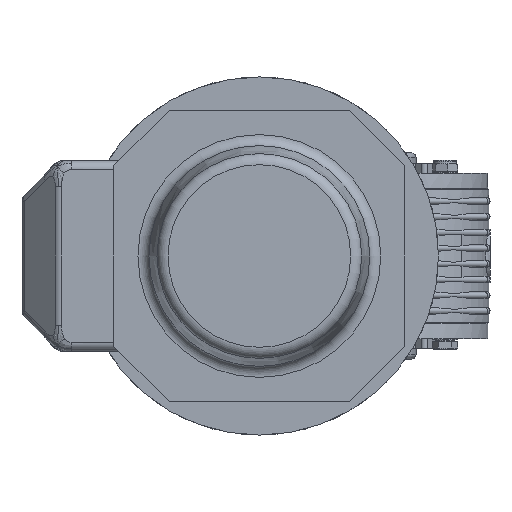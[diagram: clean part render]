
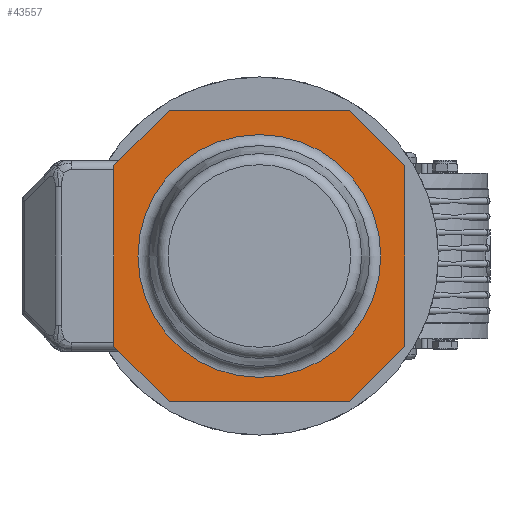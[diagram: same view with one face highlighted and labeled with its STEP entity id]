
A CAD part, left-side view. The second image highlights one B-rep face of the part: STEP entity #43557.
In plain terms, the highlighted planar face has unit normal (-1, 0, 0) as drawn and (1, 0, 0) by its records, which use the part's own axes.
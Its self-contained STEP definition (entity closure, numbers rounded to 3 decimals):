
#43451=CARTESIAN_POINT('',(209.0,0.,54.212));
#43452=VERTEX_POINT('',#43451);
#43453=CARTESIAN_POINT('',(209.0,0.0,0.0));
#43454=DIRECTION('',(1.0,0.0,0.0));
#43455=DIRECTION('',(0.0,0.0,-1.0));
#43456=AXIS2_PLACEMENT_3D('',#43453,#43454,#43455);
#43457=CIRCLE('',#43456,54.212);
#43458=EDGE_CURVE('',#43452,#43452,#43457,.T.);
#43483=CARTESIAN_POINT('',(209.0,28.6,0.0));
#43484=DIRECTION('',(1.0,0.0,0.0));
#43485=DIRECTION('',(0.0,0.0,-1.0));
#43486=AXIS2_PLACEMENT_3D('',#43483,#43484,#43485);
#43487=PLANE('',#43486);
#43488=CARTESIAN_POINT('',(209.0,-65.0,40.251));
#43489=VERTEX_POINT('',#43488);
#43490=CARTESIAN_POINT('',(209.0,-40.251,65.0));
#43491=VERTEX_POINT('',#43490);
#43492=CARTESIAN_POINT('',(209.0,-65.0,40.251));
#43493=DIRECTION('',(0.0,0.707,0.707));
#43494=VECTOR('',#43493,35.);
#43495=LINE('',#43492,#43494);
#43496=EDGE_CURVE('',#43489,#43491,#43495,.T.);
#43497=ORIENTED_EDGE('',*,*,#43496,.F.);
#43498=CARTESIAN_POINT('',(209.0,-65.0,-40.251));
#43499=VERTEX_POINT('',#43498);
#43500=CARTESIAN_POINT('',(209.0,-65.0,-40.251));
#43501=DIRECTION('',(0.0,0.0,1.0));
#43502=VECTOR('',#43501,80.503);
#43503=LINE('',#43500,#43502);
#43504=EDGE_CURVE('',#43499,#43489,#43503,.T.);
#43505=ORIENTED_EDGE('',*,*,#43504,.F.);
#43506=CARTESIAN_POINT('',(209.0,-40.251,-65.0));
#43507=VERTEX_POINT('',#43506);
#43508=CARTESIAN_POINT('',(209.0,-40.251,-65.0));
#43509=DIRECTION('',(0.0,-0.707,0.707));
#43510=VECTOR('',#43509,35.0);
#43511=LINE('',#43508,#43510);
#43512=EDGE_CURVE('',#43507,#43499,#43511,.T.);
#43513=ORIENTED_EDGE('',*,*,#43512,.F.);
#43514=CARTESIAN_POINT('',(209.0,40.251,-65.0));
#43515=VERTEX_POINT('',#43514);
#43516=CARTESIAN_POINT('',(209.0,40.251,-65.0));
#43517=DIRECTION('',(0.0,-1.0,0.0));
#43518=VECTOR('',#43517,80.503);
#43519=LINE('',#43516,#43518);
#43520=EDGE_CURVE('',#43515,#43507,#43519,.T.);
#43521=ORIENTED_EDGE('',*,*,#43520,.F.);
#43522=CARTESIAN_POINT('',(209.0,65.0,-40.251));
#43523=VERTEX_POINT('',#43522);
#43524=CARTESIAN_POINT('',(209.0,65.0,-40.251));
#43525=DIRECTION('',(0.0,-0.707,-0.707));
#43526=VECTOR('',#43525,35.0);
#43527=LINE('',#43524,#43526);
#43528=EDGE_CURVE('',#43523,#43515,#43527,.T.);
#43529=ORIENTED_EDGE('',*,*,#43528,.F.);
#43530=CARTESIAN_POINT('',(209.0,65.0,40.251));
#43531=VERTEX_POINT('',#43530);
#43532=CARTESIAN_POINT('',(209.0,65.0,40.251));
#43533=DIRECTION('',(0.0,0.0,-1.0));
#43534=VECTOR('',#43533,80.503);
#43535=LINE('',#43532,#43534);
#43536=EDGE_CURVE('',#43531,#43523,#43535,.T.);
#43537=ORIENTED_EDGE('',*,*,#43536,.F.);
#43538=CARTESIAN_POINT('',(209.0,40.251,65.0));
#43539=VERTEX_POINT('',#43538);
#43540=CARTESIAN_POINT('',(209.0,40.251,65.0));
#43541=DIRECTION('',(0.0,0.707,-0.707));
#43542=VECTOR('',#43541,35.0);
#43543=LINE('',#43540,#43542);
#43544=EDGE_CURVE('',#43539,#43531,#43543,.T.);
#43545=ORIENTED_EDGE('',*,*,#43544,.F.);
#43546=CARTESIAN_POINT('',(209.0,-40.251,65.0));
#43547=DIRECTION('',(0.0,1.0,0.0));
#43548=VECTOR('',#43547,80.503);
#43549=LINE('',#43546,#43548);
#43550=EDGE_CURVE('',#43491,#43539,#43549,.T.);
#43551=ORIENTED_EDGE('',*,*,#43550,.F.);
#43552=EDGE_LOOP('',(#43497,#43505,#43513,#43521,#43529,#43537,#43545,#43551));
#43553=FACE_OUTER_BOUND('',#43552,.T.);
#43554=ORIENTED_EDGE('',*,*,#43458,.F.);
#43555=EDGE_LOOP('',(#43554));
#43556=FACE_BOUND('',#43555,.T.);
#43557=ADVANCED_FACE('',(#43553,#43556),#43487,.T.);
